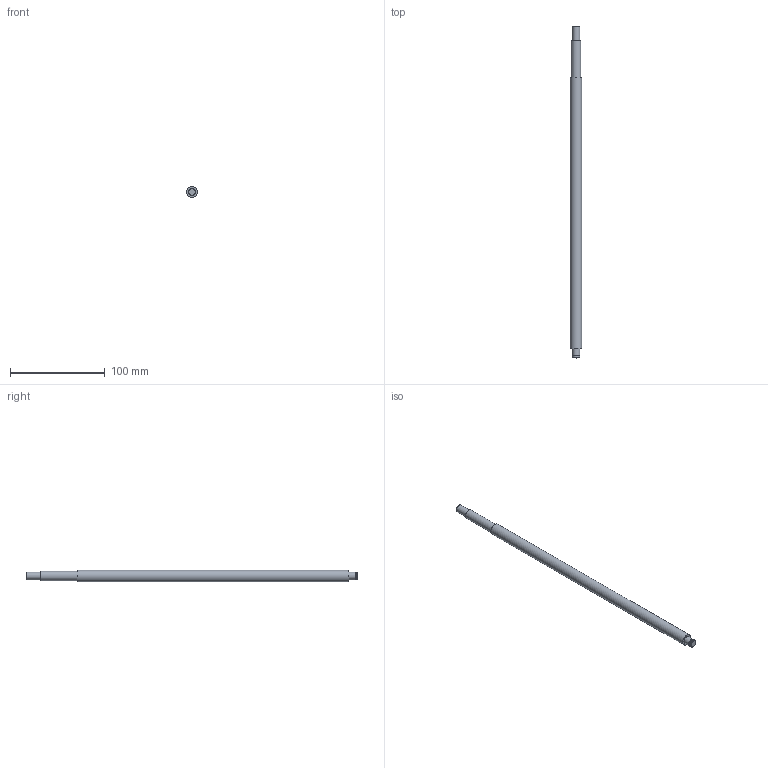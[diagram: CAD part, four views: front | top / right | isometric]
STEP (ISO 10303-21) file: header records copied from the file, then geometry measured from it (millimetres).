
FILE_DESCRIPTION(/* description */ (''),/* implementation_level */ '2;1');
FILE_NAME(/* name */ 'C:\Users\David\Desktop\stepFiles\Profilfuehrung\KUS1204x350.stp',/* time_stamp */ '2018-06-24T15:05:12+02:00',/* author */ ('David'),/* organization */ (''),/* preprocessor_version */ 'ST-DEVELOPER v17',/* originating_system */ 'Autodesk Inventor 2019',/* authorisation */ '');
FILE_SCHEMA (('AUTOMOTIVE_DESIGN { 1 0 10303 214 3 1 1 }'));
Length unit declared in the file: millimetre
Products named in the file (1): SFU1204xvariabel
Bounding box: 12 x 350 x 12 mm (x, y, z)
Volume: 36655.1 mm3; surface area: 12855 mm2
Topology: 1 solids, 1 shells, 15 faces, 34 edges, 26 vertices
Faces by surface type: plane 7, cylinder 6, cone 2
Full cylindrical faces by diameter (mm): 7.6 x1, 8 x3, 10 x1, 12 x1
Entity records: 493 total; most frequent: DIRECTION 92, CARTESIAN_POINT 76, ORIENTED_EDGE 68, AXIS2_PLACEMENT_3D 42, EDGE_CURVE 34, CIRCLE 26, VERTEX_POINT 26, EDGE_LOOP 20
